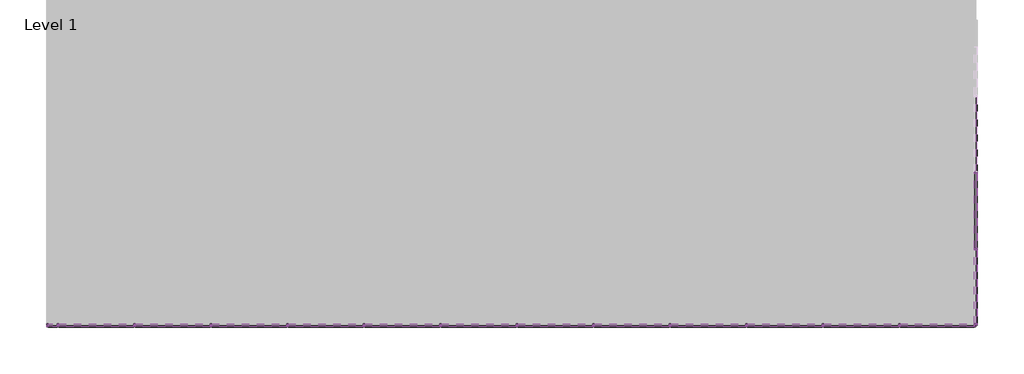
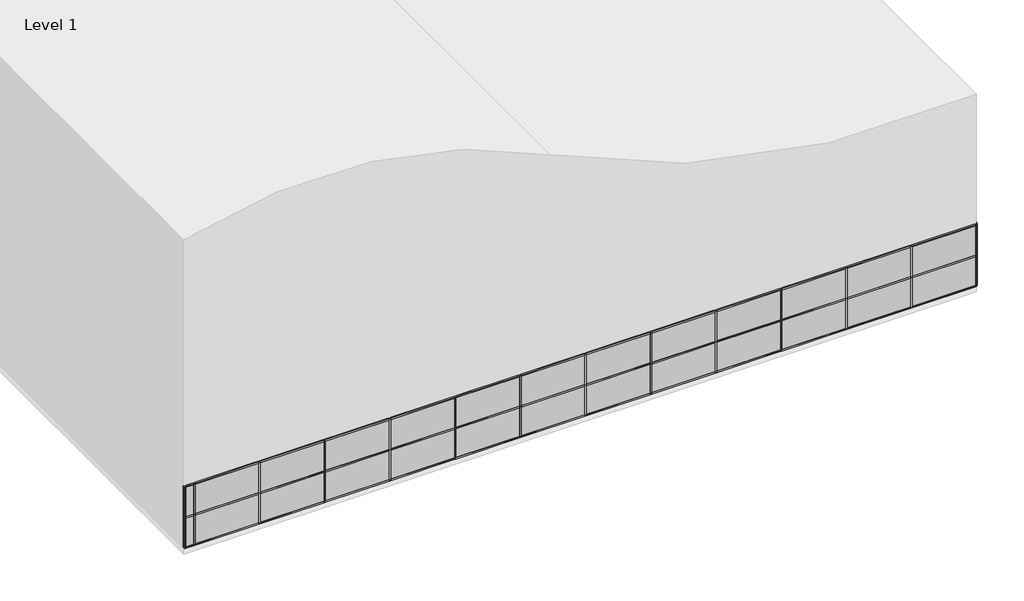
# One storey, part 1 of 2: 80 members, 32 plates.
"""IFC4 building model written with IfcOpenShell, lengths in millimetres."""

import ifcopenshell
import ifcopenshell.guid

model = None  # the IFC model being written
_history = None  # IfcOwnerHistory: only IFC2X3 demands one
_inside = {}  # id of a spatial element -> (the spatial element, [elements in it])
_under = {}  # id of a project, library or spatial element -> (it, [spatial elements below it])
_declared = {}  # id of a project -> (the project, [libraries it declares])
_typed = {}  # id of a type object -> (the type object, [elements of that type])
_made_of = {}  # id of a material, layer set ... -> (it, [elements and type objects made of it])


def new_model(schema):
    """Start an empty IFC model of exactly this schema.

    Asked for "IFC4X3", IfcOpenShell would pick the latest addendum, in which some entities
    have other attributes; the version numbers below select the first issue.
    IFC2X3 requires an IfcOwnerHistory on every rooted entity: one is made here for all.
    """
    global model, _history
    if schema == "IFC4X3":
        model = ifcopenshell.file(schema_version=(4, 3, 0, 0))
    else:
        model = ifcopenshell.file(schema=schema)
    _inside.clear()
    _under.clear()
    _declared.clear()
    _typed.clear()
    _made_of.clear()
    _history = None
    if model.schema == "IFC2X3":
        org = make("IfcOrganization", Name="unknown")
        user = make(
            "IfcPersonAndOrganization",
            ThePerson=make("IfcPerson", FamilyName="unknown"),
            TheOrganization=org,
        )
        app = make(
            "IfcApplication",
            ApplicationDeveloper=org,
            Version="unknown",
            ApplicationFullName="unknown",
            ApplicationIdentifier="unknown",
        )
        _history = make(
            "IfcOwnerHistory",
            OwningUser=user,
            OwningApplication=app,
            ChangeAction="ADDED",
            CreationDate=0,
        )
    return model


def make(cls, **values):
    """One entity of the class cls with the attributes given. An attribute that is None is left unset."""
    return model.create_entity(
        cls, **{name: value for name, value in values.items() if value is not None}
    )


def rooted(cls, **values):
    """An entity with a GlobalId (a new one), such as an element, a storey or a relation."""
    return make(cls, GlobalId=ifcopenshell.guid.new(), OwnerHistory=_history, **values)


def si_unit(unit_type, name, prefix=None):
    """IfcSIUnit, for example si_unit("LENGTHUNIT", "METRE", prefix="MILLI")."""
    return make("IfcSIUnit", UnitType=unit_type, Prefix=prefix, Name=name)


def assignment(units):
    """IfcUnitAssignment: the units of a project."""
    return None if units is None else make("IfcUnitAssignment", Units=units)


def point(xyz):
    """IfcCartesianPoint."""
    return None if xyz is None else make("IfcCartesianPoint", Coordinates=xyz)


def direction(xyz):
    """IfcDirection."""
    return None if xyz is None else make("IfcDirection", DirectionRatios=xyz)


def frame(location, z_axis=None, x_axis=None):
    """IfcAxis2Placement3D, a coordinate frame: its origin and axes. An axis left out is left unset."""
    return make(
        "IfcAxis2Placement3D",
        Location=point(location),
        Axis=direction(z_axis),
        RefDirection=direction(x_axis),
    )


def origin():
    """The frame at (0, 0, 0) with its axes left unset."""
    return frame((0.0, 0.0, 0.0))


def origin_with_axes():
    """The frame at (0, 0, 0) with the z axis (0, 0, 1) and the x axis (1, 0, 0) written out."""
    return frame((0.0, 0.0, 0.0), z_axis=(0.0, 0.0, 1.0), x_axis=(1.0, 0.0, 0.0))


def place(relative_to, where):
    """IfcLocalPlacement: puts the frame where relative to a parent placement (None: the world)."""
    return make(
        "IfcLocalPlacement", PlacementRelTo=relative_to, RelativePlacement=where
    )


def context(
    kind, dimensions, precision=None, world=None, true_north=None, identifier=None
):
    """IfcGeometricRepresentationContext, for example the 3D "Model" context."""
    return make(
        "IfcGeometricRepresentationContext",
        ContextIdentifier=identifier,
        ContextType=kind,
        CoordinateSpaceDimension=dimensions,
        Precision=precision,
        WorldCoordinateSystem=world,
        TrueNorth=true_north,
    )


def project(units=None, contexts=None):
    """IfcProject with its units and contexts."""
    return rooted(
        "IfcProject",
        Name="project",
        RepresentationContexts=contexts,
        UnitsInContext=assignment(units),
    )


def spatial(cls, under=None, at=None, **own):
    """A site, building, storey or space (cls), placed at a placement, below another one or the project."""
    s = rooted(cls, ObjectPlacement=at, **own)
    if under is not None:
        _under.setdefault(under.id(), (under, []))[1].append(s)
    return s


def polyline(points):
    """IfcPolyline through the points."""
    return make("IfcPolyline", Points=[point(p) for p in points])


def outline(outer, holes=None, kind="AREA"):
    """IfcArbitraryClosedProfileDef: a profile drawn as a closed curve; with holes, ...WithVoids."""
    if holes is None:
        return make("IfcArbitraryClosedProfileDef", ProfileType=kind, OuterCurve=outer)
    return make(
        "IfcArbitraryProfileDefWithVoids",
        ProfileType=kind,
        OuterCurve=outer,
        InnerCurves=holes,
    )


def extrude(swept, where, along, depth):
    """IfcExtrudedAreaSolid: the profile swept, set in the frame where, extruded along a direction by depth."""
    return make(
        "IfcExtrudedAreaSolid",
        SweptArea=swept,
        Position=where,
        ExtrudedDirection=direction(along),
        Depth=depth,
    )


def shape(context_of_items, identifier, shape_type, items):
    """IfcShapeRepresentation: the items that make up one representation, for example the "Body"."""
    return make(
        "IfcShapeRepresentation",
        ContextOfItems=context_of_items,
        RepresentationIdentifier=identifier,
        RepresentationType=shape_type,
        Items=items,
    )


def source(mapping_origin, context_of_items, identifier, shape_type, items):
    """IfcRepresentationMap: a shape defined once, which mapped items show again and again."""
    return make(
        "IfcRepresentationMap",
        MappingOrigin=mapping_origin,
        MappedRepresentation=shape(context_of_items, identifier, shape_type, items),
    )


def transform(
    local_origin,
    x_axis=None,
    y_axis=None,
    z_axis=None,
    scale=None,
    scale2=None,
    scale3=None,
    uniform=True,
):
    """IfcCartesianTransformationOperator3D, or its non-uniform kind. x_axis, y_axis, z_axis: its Axis1, 2, 3."""
    if uniform:
        return make(
            "IfcCartesianTransformationOperator3D",
            Axis1=direction(x_axis),
            Axis2=direction(y_axis),
            LocalOrigin=point(local_origin),
            Scale=scale,
            Axis3=direction(z_axis),
        )
    return make(
        "IfcCartesianTransformationOperator3DnonUniform",
        Axis1=direction(x_axis),
        Axis2=direction(y_axis),
        LocalOrigin=point(local_origin),
        Scale=scale,
        Axis3=direction(z_axis),
        Scale2=scale2,
        Scale3=scale3,
    )


def mapped(mapping_source, mapping_target):
    """IfcMappedItem: shows the shape of a source again, moved by a transform."""
    return make(
        "IfcMappedItem", MappingSource=mapping_source, MappingTarget=mapping_target
    )


def made_of(thing, what):
    """Note that an element or type object is made of a material, layer set ...; save() writes the relation."""
    if what is not None:
        _made_of.setdefault(what.id(), (what, []))[1].append(thing)
    return thing


def element(
    cls,
    number,
    at=None,
    inside=None,
    cuts=None,
    type_object=None,
    material=None,
    context=None,
    identifier="Body",
    shape_type=None,
    held_by="IfcProductDefinitionShape",
    body=None,
    shapes=None,
    **own,
):
    """One element of the class cls, such as IfcWall. Its Tag is "e" and its number.

    at: its placement. inside: the storey or other place that contains it. cuts: it is an
    opening in that element (IfcRelVoidsElement). A single representation is given by context,
    identifier, shape_type and body (its items); several are given by shapes. held_by: the class
    of the entity that holds the representations. save() writes the other relations.
    """
    e = rooted(cls, Tag="e%d" % number, ObjectPlacement=at, **own)
    if body is not None:
        shapes = [shape(context, identifier, shape_type, body)]
    if shapes is not None:
        e.Representation = make(held_by, Representations=shapes)
    if inside is not None:
        _inside.setdefault(inside.id(), (inside, []))[1].append(e)
    if cuts is not None:
        rooted(
            "IfcRelVoidsElement", RelatingBuildingElement=cuts, RelatedOpeningElement=e
        )
    if type_object is not None:
        _typed.setdefault(type_object.id(), (type_object, []))[1].append(e)
    return made_of(e, material)


def aggregate(whole, parts):
    """IfcRelAggregates: a whole, such as a stair, and the parts it consists of."""
    return rooted("IfcRelAggregates", RelatingObject=whole, RelatedObjects=parts)


def save(model, path):
    """Write the relations noted so far, then the file.

    IfcRelAggregates (storeys below a building ...), IfcRelContainedInSpatialStructure (elements
    in a storey), IfcRelDefinesByType, IfcRelAssociatesMaterial and IfcRelDeclares: one each for
    every whole, place, type object, material and project.
    """
    for whole, parts in _under.values():
        aggregate(whole, parts)
    for where, things in _inside.values():
        rooted(
            "IfcRelContainedInSpatialStructure",
            RelatedElements=things,
            RelatingStructure=where,
        )
    for kind, things in _typed.values():
        rooted("IfcRelDefinesByType", RelatedObjects=things, RelatingType=kind)
    for what, things in _made_of.values():
        rooted("IfcRelAssociatesMaterial", RelatedObjects=things, RelatingMaterial=what)
    for by, libraries in _declared.values():
        rooted("IfcRelDeclares", RelatingContext=by, RelatedDefinitions=libraries)
    model.write(path)


def member_8cef0660(model_context):
    return source(origin(), model_context, "Body", "SweptSolid", [
        extrude(outline(polyline([(31.75, 63.5), (31.75, -63.5), (-31.75, -63.5), (-31.75, 63.5), (31.75, 63.5)])), frame((0.0, 0.0, -2984.5), z_axis=(0.0, 0.0, 1.0), x_axis=(1.0, 0.0, 0.0)), (0.0, 0.0, 1.0), 2984.5),
    ])


def member_c65d5026(model_context):
    return source(origin(), model_context, "Body", "SweptSolid", [
        extrude(outline(polyline([(31.75, 63.5), (31.75, -63.5), (-31.75, -63.5), (-31.75, 63.5), (31.75, 63.5)])), frame((0.0, 0.0, -2952.75), z_axis=(0.0, 0.0, 1.0), x_axis=(1.0, 0.0, 0.0)), (0.0, 0.0, 1.0), 2952.75),
    ])


def member_82905deb(model_context):
    return source(origin(), model_context, "Body", "SweptSolid", [
        extrude(outline(polyline([(31.75, 63.5), (31.75, -63.5), (-31.75, -63.5), (-31.75, 63.5), (31.75, 63.5)])), frame((0.0, 0.0, -1524.0), z_axis=(0.0, 0.0, 1.0), x_axis=(1.0, 0.0, 0.0)), (0.0, 0.0, 1.0), 1524.0),
    ])


def member_db480205(model_context):
    return source(origin(), model_context, "Body", "SweptSolid", [
        extrude(outline(polyline([(0.0, 63.5), (0.0, -63.5), (-63.5, -63.5), (-63.5, 63.5), (0.0, 63.5)])), frame((0.0, 0.0, -2984.5), z_axis=(0.0, 0.0, 1.0), x_axis=(1.0, 0.0, 0.0)), (0.0, 0.0, 1.0), 2984.5),
    ])


def member_d9b0607a(model_context):
    return source(origin(), model_context, "Body", "SweptSolid", [
        extrude(outline(polyline([(0.0, 63.5), (0.0, -63.5), (-63.5, -63.5), (-63.5, 63.5), (0.0, 63.5)])), frame((0.0, 0.0, -2952.75), z_axis=(0.0, 0.0, 1.0), x_axis=(1.0, 0.0, 0.0)), (0.0, 0.0, 1.0), 2952.75),
    ])


def member_4491d118(model_context):
    return source(origin(), model_context, "Body", "SweptSolid", [
        extrude(outline(polyline([(0.0, 63.5), (0.0, -63.5), (-63.5, -63.5), (-63.5, 63.5), (0.0, 63.5)])), frame((0.0, 0.0, -1524.0), z_axis=(0.0, 0.0, 1.0), x_axis=(1.0, 0.0, 0.0)), (0.0, 0.0, 1.0), 1524.0),
    ])


def member_843225dc(model_context):
    return source(origin(), model_context, "Body", "SweptSolid", [
        extrude(outline(polyline([(0.0, 63.5), (0.0, -63.5), (-63.5, -63.5), (-63.5, 63.5), (0.0, 63.5)])), frame((0.0, 0.0, -361.95), z_axis=(0.0, 0.0, 1.0), x_axis=(1.0, 0.0, 0.0)), (0.0, 0.0, 1.0), 361.95),
    ])


def member_af2f84b9(model_context):
    return source(origin(), model_context, "Body", "SweptSolid", [
        extrude(outline(polyline([(31.75, 63.5), (31.75, -63.5), (-31.75, -63.5), (-31.75, 63.5), (31.75, 63.5)])), frame((0.0, 0.0, -361.95), z_axis=(0.0, 0.0, 1.0), x_axis=(1.0, 0.0, 0.0)), (0.0, 0.0, 1.0), 361.95),
    ])


def empty_system_panel_empty_d68e6c83(model_context):
    return source(origin(), model_context, "Body", "SweptSolid", [
        extrude(outline(polyline([(1492.25, -50.8), (-1492.25, -50.8), (-1492.25, 50.8), (1492.25, 50.8), (1492.25, -50.8)])), origin_with_axes(), (0.0, 0.0, 1.0), 1428.75),
    ])


def system_panel_glazed_d57e1c1e(model_context):
    return source(origin(), model_context, "Body", "SweptSolid", [
        extrude(outline(polyline([(1476.375, 19.05), (-1476.375, 19.05), (-1476.375, 44.45), (1476.375, 44.45), (1476.375, 19.05)])), origin_with_axes(), (0.0, 0.0, 1.0), 1428.75),
    ])


def system_panel_glazed_3620f98e(model_context):
    return source(origin(), model_context, "Body", "SweptSolid", [
        extrude(outline(polyline([(1492.25, 19.05), (-1492.25, 19.05), (-1492.25, 44.45), (1492.25, 44.45), (1492.25, 19.05)])), origin_with_axes(), (0.0, 0.0, 1.0), 1428.75),
    ])


def system_panel_glazed_88acb840(model_context):
    return source(origin(), model_context, "Body", "SweptSolid", [
        extrude(outline(polyline([(1476.375, 19.05), (-1476.375, 19.05), (-1476.375, 44.45), (1476.375, 44.45), (1476.375, 19.05)])), origin_with_axes(), (0.0, 0.0, 1.0), 1460.5),
    ])


def system_panel_glazed_2a6c68b7(model_context):
    return source(origin(), model_context, "Body", "SweptSolid", [
        extrude(outline(polyline([(1492.25, 19.05), (-1492.25, 19.05), (-1492.25, 44.45), (1492.25, 44.45), (1492.25, 19.05)])), origin_with_axes(), (0.0, 0.0, 1.0), 1460.5),
    ])


def system_panel_glazed_e12d2849(model_context):
    return source(origin(), model_context, "Body", "SweptSolid", [
        extrude(outline(polyline([(180.975, 19.05), (-180.975, 19.05), (-180.975, 44.45), (180.975, 44.45), (180.975, 19.05)])), origin_with_axes(), (0.0, 0.0, 1.0), 1428.75),
    ])


def system_panel_glazed_224948cd(model_context):
    return source(origin(), model_context, "Body", "SweptSolid", [
        extrude(outline(polyline([(180.975, 19.05), (-180.975, 19.05), (-180.975, 44.45), (180.975, 44.45), (180.975, 19.05)])), origin_with_axes(), (0.0, 0.0, 1.0), 1460.5),
    ])


model = new_model("IFC4")

# Units and contexts
model_context = context("Model", 3, world=origin())
ifc_project = project(units=[si_unit("LENGTHUNIT", "METRE", prefix="MILLI")], contexts=[model_context])

# Site, building, storey
site = spatial("IfcSite", under=ifc_project)
building = spatial("IfcBuilding", under=site)
storey = spatial("IfcBuildingStorey", under=building, Name="Level 1", Elevation=0.0)

# Members
placement = place(None, origin())
member_shape = member_8cef0660(model_context)
element("IfcMember", 1, ObjectType="Rectangular Mullion : 2.5\" x 5\" rectangular", at=placement, inside=storey, context=model_context, shape_type="MappedRepresentation", body=[
    mapped(member_shape, transform((-7003.8511466, -36697.3111797, 3048.0), x_axis=(0.0, 0.0, 1.0), y_axis=(1.0, 0.0, 0.0), z_axis=(0.0, 1.0, 0.0))),
])
element("IfcMember", 2, ObjectType="Rectangular Mullion : 2.5\" x 5\" rectangular", at=placement, inside=storey, context=model_context, shape_type="MappedRepresentation", body=[
    mapped(member_shape, transform((-7003.8511466, -36697.3111797, 1524.0), x_axis=(0.0, 0.0, 1.0), y_axis=(1.0, 0.0, 0.0), z_axis=(0.0, 1.0, 0.0))),
])
element("IfcMember", 3, ObjectType="Rectangular Mullion : 2.5\" x 5\" rectangular", at=placement, inside=storey, context=model_context, shape_type="MappedRepresentation", body=[
    mapped(member_shape, transform((-10083.6011466, -42761.5611797, 1524.0), x_axis=(0.0, 0.0, 1.0), y_axis=(0.0, -1.0, 0.0), z_axis=(1.0, 0.0, 0.0))),
])
element("IfcMember", 4, ObjectType="Rectangular Mullion : 2.5\" x 5\" rectangular", at=placement, inside=storey, context=model_context, shape_type="MappedRepresentation", body=[
    mapped(member_shape, transform((-40563.6011466, -42761.5611797, 3048.0), x_axis=(0.0, 0.0, 1.0), y_axis=(0.0, -1.0, 0.0), z_axis=(1.0, 0.0, 0.0))),
])
element("IfcMember", 5, ObjectType="Rectangular Mullion : 2.5\" x 5\" rectangular", at=placement, inside=storey, context=model_context, shape_type="MappedRepresentation", body=[
    mapped(member_shape, transform((-37515.6011466, -42761.5611797, 3048.0), x_axis=(0.0, 0.0, 1.0), y_axis=(0.0, -1.0, 0.0), z_axis=(1.0, 0.0, 0.0))),
])
element("IfcMember", 6, ObjectType="Rectangular Mullion : 2.5\" x 5\" rectangular", at=placement, inside=storey, context=model_context, shape_type="MappedRepresentation", body=[
    mapped(member_shape, transform((-34467.6011466, -42761.5611797, 3048.0), x_axis=(0.0, 0.0, 1.0), y_axis=(0.0, -1.0, 0.0), z_axis=(1.0, 0.0, 0.0))),
])
element("IfcMember", 7, ObjectType="Rectangular Mullion : 2.5\" x 5\" rectangular", at=placement, inside=storey, context=model_context, shape_type="MappedRepresentation", body=[
    mapped(member_shape, transform((-31419.6011466, -42761.5611797, 3048.0), x_axis=(0.0, 0.0, 1.0), y_axis=(0.0, -1.0, 0.0), z_axis=(1.0, 0.0, 0.0))),
])
element("IfcMember", 8, ObjectType="Rectangular Mullion : 2.5\" x 5\" rectangular", at=placement, inside=storey, context=model_context, shape_type="MappedRepresentation", body=[
    mapped(member_shape, transform((-28371.6011466, -42761.5611797, 3048.0), x_axis=(0.0, 0.0, 1.0), y_axis=(0.0, -1.0, 0.0), z_axis=(1.0, 0.0, 0.0))),
])
element("IfcMember", 9, ObjectType="Rectangular Mullion : 2.5\" x 5\" rectangular", at=placement, inside=storey, context=model_context, shape_type="MappedRepresentation", body=[
    mapped(member_shape, transform((-25323.6011466, -42761.5611797, 3048.0), x_axis=(0.0, 0.0, 1.0), y_axis=(0.0, -1.0, 0.0), z_axis=(1.0, 0.0, 0.0))),
])
element("IfcMember", 10, ObjectType="Rectangular Mullion : 2.5\" x 5\" rectangular", at=placement, inside=storey, context=model_context, shape_type="MappedRepresentation", body=[
    mapped(member_shape, transform((-22275.6011466, -42761.5611797, 3048.0), x_axis=(0.0, 0.0, 1.0), y_axis=(0.0, -1.0, 0.0), z_axis=(1.0, 0.0, 0.0))),
])
element("IfcMember", 11, ObjectType="Rectangular Mullion : 2.5\" x 5\" rectangular", at=placement, inside=storey, context=model_context, shape_type="MappedRepresentation", body=[
    mapped(member_shape, transform((-19227.6011466, -42761.5611797, 3048.0), x_axis=(0.0, 0.0, 1.0), y_axis=(0.0, -1.0, 0.0), z_axis=(1.0, 0.0, 0.0))),
])
element("IfcMember", 12, ObjectType="Rectangular Mullion : 2.5\" x 5\" rectangular", at=placement, inside=storey, context=model_context, shape_type="MappedRepresentation", body=[
    mapped(member_shape, transform((-16179.6011466, -42761.5611797, 3048.0), x_axis=(0.0, 0.0, 1.0), y_axis=(0.0, -1.0, 0.0), z_axis=(1.0, 0.0, 0.0))),
])
element("IfcMember", 13, ObjectType="Rectangular Mullion : 2.5\" x 5\" rectangular", at=placement, inside=storey, context=model_context, shape_type="MappedRepresentation", body=[
    mapped(member_shape, transform((-13131.6011466, -42761.5611797, 3048.0), x_axis=(0.0, 0.0, 1.0), y_axis=(0.0, -1.0, 0.0), z_axis=(1.0, 0.0, 0.0))),
])
element("IfcMember", 14, ObjectType="Rectangular Mullion : 2.5\" x 5\" rectangular", at=placement, inside=storey, context=model_context, shape_type="MappedRepresentation", body=[
    mapped(member_shape, transform((-10083.6011466, -42761.5611797, 3048.0), x_axis=(0.0, 0.0, 1.0), y_axis=(0.0, -1.0, 0.0), z_axis=(1.0, 0.0, 0.0))),
])
element("IfcMember", 15, ObjectType="Rectangular Mullion : 2.5\" x 5\" rectangular", at=placement, inside=storey, context=model_context, shape_type="MappedRepresentation", body=[
    mapped(member_shape, transform((-40563.6011466, -42761.5611797, 1524.0), x_axis=(0.0, 0.0, 1.0), y_axis=(0.0, -1.0, 0.0), z_axis=(1.0, 0.0, 0.0))),
])
element("IfcMember", 16, ObjectType="Rectangular Mullion : 2.5\" x 5\" rectangular", at=placement, inside=storey, context=model_context, shape_type="MappedRepresentation", body=[
    mapped(member_shape, transform((-37515.6011466, -42761.5611797, 1524.0), x_axis=(0.0, 0.0, 1.0), y_axis=(0.0, -1.0, 0.0), z_axis=(1.0, 0.0, 0.0))),
])
element("IfcMember", 17, ObjectType="Rectangular Mullion : 2.5\" x 5\" rectangular", at=placement, inside=storey, context=model_context, shape_type="MappedRepresentation", body=[
    mapped(member_shape, transform((-34467.6011466, -42761.5611797, 1524.0), x_axis=(0.0, 0.0, 1.0), y_axis=(0.0, -1.0, 0.0), z_axis=(1.0, 0.0, 0.0))),
])
element("IfcMember", 18, ObjectType="Rectangular Mullion : 2.5\" x 5\" rectangular", at=placement, inside=storey, context=model_context, shape_type="MappedRepresentation", body=[
    mapped(member_shape, transform((-31419.6011466, -42761.5611797, 1524.0), x_axis=(0.0, 0.0, 1.0), y_axis=(0.0, -1.0, 0.0), z_axis=(1.0, 0.0, 0.0))),
])
element("IfcMember", 19, ObjectType="Rectangular Mullion : 2.5\" x 5\" rectangular", at=placement, inside=storey, context=model_context, shape_type="MappedRepresentation", body=[
    mapped(member_shape, transform((-28371.6011466, -42761.5611797, 1524.0), x_axis=(0.0, 0.0, 1.0), y_axis=(0.0, -1.0, 0.0), z_axis=(1.0, 0.0, 0.0))),
])
element("IfcMember", 20, ObjectType="Rectangular Mullion : 2.5\" x 5\" rectangular", at=placement, inside=storey, context=model_context, shape_type="MappedRepresentation", body=[
    mapped(member_shape, transform((-25323.6011466, -42761.5611797, 1524.0), x_axis=(0.0, 0.0, 1.0), y_axis=(0.0, -1.0, 0.0), z_axis=(1.0, 0.0, 0.0))),
])
element("IfcMember", 21, ObjectType="Rectangular Mullion : 2.5\" x 5\" rectangular", at=placement, inside=storey, context=model_context, shape_type="MappedRepresentation", body=[
    mapped(member_shape, transform((-22275.6011466, -42761.5611797, 1524.0), x_axis=(0.0, 0.0, 1.0), y_axis=(0.0, -1.0, 0.0), z_axis=(1.0, 0.0, 0.0))),
])
element("IfcMember", 22, ObjectType="Rectangular Mullion : 2.5\" x 5\" rectangular", at=placement, inside=storey, context=model_context, shape_type="MappedRepresentation", body=[
    mapped(member_shape, transform((-19227.6011466, -42761.5611797, 1524.0), x_axis=(0.0, 0.0, 1.0), y_axis=(0.0, -1.0, 0.0), z_axis=(1.0, 0.0, 0.0))),
])
element("IfcMember", 23, ObjectType="Rectangular Mullion : 2.5\" x 5\" rectangular", at=placement, inside=storey, context=model_context, shape_type="MappedRepresentation", body=[
    mapped(member_shape, transform((-16179.6011466, -42761.5611797, 1524.0), x_axis=(0.0, 0.0, 1.0), y_axis=(0.0, -1.0, 0.0), z_axis=(1.0, 0.0, 0.0))),
])
element("IfcMember", 24, ObjectType="Rectangular Mullion : 2.5\" x 5\" rectangular", at=placement, inside=storey, context=model_context, shape_type="MappedRepresentation", body=[
    mapped(member_shape, transform((-13131.6011466, -42761.5611797, 1524.0), x_axis=(0.0, 0.0, 1.0), y_axis=(0.0, -1.0, 0.0), z_axis=(1.0, 0.0, 0.0))),
])
member_2_shape = member_c65d5026(model_context)
element("IfcMember", 25, ObjectType="Rectangular Mullion : 2.5\" x 5\" rectangular", at=placement, inside=storey, context=model_context, shape_type="MappedRepresentation", body=[
    mapped(member_2_shape, transform((-7003.8511466, -39745.3111797, 3048.0), x_axis=(0.0, 0.0, 1.0), y_axis=(1.0, 0.0, 0.0), z_axis=(0.0, 1.0, 0.0))),
])
element("IfcMember", 26, ObjectType="Rectangular Mullion : 2.5\" x 5\" rectangular", at=placement, inside=storey, context=model_context, shape_type="MappedRepresentation", body=[
    mapped(member_2_shape, transform((-7003.8511466, -39745.3111797, 1524.0), x_axis=(0.0, 0.0, 1.0), y_axis=(1.0, 0.0, 0.0), z_axis=(0.0, 1.0, 0.0))),
])
element("IfcMember", 27, ObjectType="Rectangular Mullion : 2.5\" x 5\" rectangular", at=placement, inside=storey, context=model_context, shape_type="MappedRepresentation", body=[
    mapped(member_2_shape, transform((-7067.3511466, -42761.5611797, 1524.0), x_axis=(0.0, 0.0, 1.0), y_axis=(0.0, -1.0, 0.0), z_axis=(1.0, 0.0, 0.0))),
])
element("IfcMember", 28, ObjectType="Rectangular Mullion : 2.5\" x 5\" rectangular", at=placement, inside=storey, context=model_context, shape_type="MappedRepresentation", body=[
    mapped(member_2_shape, transform((-7067.3511466, -42761.5611797, 3048.0), x_axis=(0.0, 0.0, 1.0), y_axis=(0.0, -1.0, 0.0), z_axis=(1.0, 0.0, 0.0))),
])
member_3_shape = member_82905deb(model_context)
element("IfcMember", 29, ObjectType="Rectangular Mullion : 2.5\" x 5\" rectangular", at=placement, inside=storey, context=model_context, shape_type="MappedRepresentation", body=[
    mapped(member_3_shape, transform((-7003.8511466, -39713.5611797, 3048.0), x_axis=(0.0, -1.0, 0.0), y_axis=(1.0, 0.0, 0.0), z_axis=(0.0, 0.0, 1.0))),
])
element("IfcMember", 30, ObjectType="Rectangular Mullion : 2.5\" x 5\" rectangular", at=placement, inside=storey, context=model_context, shape_type="MappedRepresentation", body=[
    mapped(member_3_shape, transform((-7003.8511466, -36665.5611797, 3048.0), x_axis=(0.0, -1.0, 0.0), y_axis=(1.0, 0.0, 0.0), z_axis=(0.0, 0.0, 1.0))),
])
element("IfcMember", 31, ObjectType="Rectangular Mullion : 2.5\" x 5\" rectangular", at=placement, inside=storey, context=model_context, shape_type="MappedRepresentation", body=[
    mapped(member_3_shape, transform((-10051.8511466, -42761.5611797, 3048.0), x_axis=(-1.0, 0.0, 0.0), y_axis=(0.0, -1.0, 0.0), z_axis=(0.0, 0.0, 1.0))),
])
element("IfcMember", 32, ObjectType="Rectangular Mullion : 2.5\" x 5\" rectangular", at=placement, inside=storey, context=model_context, shape_type="MappedRepresentation", body=[
    mapped(member_3_shape, transform((-31387.8511466, -42761.5611797, 3048.0), x_axis=(-1.0, 0.0, 0.0), y_axis=(0.0, -1.0, 0.0), z_axis=(0.0, 0.0, 1.0))),
])
element("IfcMember", 33, ObjectType="Rectangular Mullion : 2.5\" x 5\" rectangular", at=placement, inside=storey, context=model_context, shape_type="MappedRepresentation", body=[
    mapped(member_3_shape, transform((-28339.8511466, -42761.5611797, 3048.0), x_axis=(-1.0, 0.0, 0.0), y_axis=(0.0, -1.0, 0.0), z_axis=(0.0, 0.0, 1.0))),
])
element("IfcMember", 34, ObjectType="Rectangular Mullion : 2.5\" x 5\" rectangular", at=placement, inside=storey, context=model_context, shape_type="MappedRepresentation", body=[
    mapped(member_3_shape, transform((-25291.8511466, -42761.5611797, 3048.0), x_axis=(-1.0, 0.0, 0.0), y_axis=(0.0, -1.0, 0.0), z_axis=(0.0, 0.0, 1.0))),
])
element("IfcMember", 35, ObjectType="Rectangular Mullion : 2.5\" x 5\" rectangular", at=placement, inside=storey, context=model_context, shape_type="MappedRepresentation", body=[
    mapped(member_3_shape, transform((-22243.8511466, -42761.5611797, 3048.0), x_axis=(-1.0, 0.0, 0.0), y_axis=(0.0, -1.0, 0.0), z_axis=(0.0, 0.0, 1.0))),
])
element("IfcMember", 36, ObjectType="Rectangular Mullion : 2.5\" x 5\" rectangular", at=placement, inside=storey, context=model_context, shape_type="MappedRepresentation", body=[
    mapped(member_3_shape, transform((-19195.8511466, -42761.5611797, 3048.0), x_axis=(-1.0, 0.0, 0.0), y_axis=(0.0, -1.0, 0.0), z_axis=(0.0, 0.0, 1.0))),
])
element("IfcMember", 37, ObjectType="Rectangular Mullion : 2.5\" x 5\" rectangular", at=placement, inside=storey, context=model_context, shape_type="MappedRepresentation", body=[
    mapped(member_3_shape, transform((-16147.8511466, -42761.5611797, 3048.0), x_axis=(-1.0, 0.0, 0.0), y_axis=(0.0, -1.0, 0.0), z_axis=(0.0, 0.0, 1.0))),
])
element("IfcMember", 38, ObjectType="Rectangular Mullion : 2.5\" x 5\" rectangular", at=placement, inside=storey, context=model_context, shape_type="MappedRepresentation", body=[
    mapped(member_3_shape, transform((-13099.8511466, -42761.5611797, 3048.0), x_axis=(-1.0, 0.0, 0.0), y_axis=(0.0, -1.0, 0.0), z_axis=(0.0, 0.0, 1.0))),
])
element("IfcMember", 39, ObjectType="Rectangular Mullion : 2.5\" x 5\" rectangular", at=placement, inside=storey, context=model_context, shape_type="MappedRepresentation", body=[
    mapped(member_3_shape, transform((-43579.8511466, -42761.5611797, 3048.0), x_axis=(-1.0, 0.0, 0.0), y_axis=(0.0, -1.0, 0.0), z_axis=(0.0, 0.0, 1.0))),
])
element("IfcMember", 40, ObjectType="Rectangular Mullion : 2.5\" x 5\" rectangular", at=placement, inside=storey, context=model_context, shape_type="MappedRepresentation", body=[
    mapped(member_3_shape, transform((-40531.8511466, -42761.5611797, 3048.0), x_axis=(-1.0, 0.0, 0.0), y_axis=(0.0, -1.0, 0.0), z_axis=(0.0, 0.0, 1.0))),
])
element("IfcMember", 41, ObjectType="Rectangular Mullion : 2.5\" x 5\" rectangular", at=placement, inside=storey, context=model_context, shape_type="MappedRepresentation", body=[
    mapped(member_3_shape, transform((-37483.8511466, -42761.5611797, 3048.0), x_axis=(-1.0, 0.0, 0.0), y_axis=(0.0, -1.0, 0.0), z_axis=(0.0, 0.0, 1.0))),
])
element("IfcMember", 42, ObjectType="Rectangular Mullion : 2.5\" x 5\" rectangular", at=placement, inside=storey, context=model_context, shape_type="MappedRepresentation", body=[
    mapped(member_3_shape, transform((-34435.8511466, -42761.5611797, 3048.0), x_axis=(-1.0, 0.0, 0.0), y_axis=(0.0, -1.0, 0.0), z_axis=(0.0, 0.0, 1.0))),
])
element("IfcMember", 43, ObjectType="Rectangular Mullion : 2.5\" x 5\" rectangular", at=placement, inside=storey, context=model_context, shape_type="MappedRepresentation", body=[
    mapped(member_3_shape, transform((-7003.8511466, -39713.5611797, 1524.0), x_axis=(0.0, -1.0, 0.0), y_axis=(1.0, 0.0, 0.0), z_axis=(0.0, 0.0, 1.0))),
])
element("IfcMember", 44, ObjectType="Rectangular Mullion : 2.5\" x 5\" rectangular", at=placement, inside=storey, context=model_context, shape_type="MappedRepresentation", body=[
    mapped(member_3_shape, transform((-7003.8511466, -36665.5611797, 1524.0), x_axis=(0.0, -1.0, 0.0), y_axis=(1.0, 0.0, 0.0), z_axis=(0.0, 0.0, 1.0))),
])
element("IfcMember", 45, ObjectType="Rectangular Mullion : 2.5\" x 5\" rectangular", at=placement, inside=storey, context=model_context, shape_type="MappedRepresentation", body=[
    mapped(member_3_shape, transform((-13099.8511466, -42761.5611797, 1524.0), x_axis=(-1.0, 0.0, 0.0), y_axis=(0.0, -1.0, 0.0), z_axis=(0.0, 0.0, 1.0))),
])
element("IfcMember", 46, ObjectType="Rectangular Mullion : 2.5\" x 5\" rectangular", at=placement, inside=storey, context=model_context, shape_type="MappedRepresentation", body=[
    mapped(member_3_shape, transform((-10051.8511466, -42761.5611797, 1524.0), x_axis=(-1.0, 0.0, 0.0), y_axis=(0.0, -1.0, 0.0), z_axis=(0.0, 0.0, 1.0))),
])
element("IfcMember", 47, ObjectType="Rectangular Mullion : 2.5\" x 5\" rectangular", at=placement, inside=storey, context=model_context, shape_type="MappedRepresentation", body=[
    mapped(member_3_shape, transform((-31387.8511466, -42761.5611797, 1524.0), x_axis=(-1.0, 0.0, 0.0), y_axis=(0.0, -1.0, 0.0), z_axis=(0.0, 0.0, 1.0))),
])
element("IfcMember", 48, ObjectType="Rectangular Mullion : 2.5\" x 5\" rectangular", at=placement, inside=storey, context=model_context, shape_type="MappedRepresentation", body=[
    mapped(member_3_shape, transform((-28339.8511466, -42761.5611797, 1524.0), x_axis=(-1.0, 0.0, 0.0), y_axis=(0.0, -1.0, 0.0), z_axis=(0.0, 0.0, 1.0))),
])
element("IfcMember", 49, ObjectType="Rectangular Mullion : 2.5\" x 5\" rectangular", at=placement, inside=storey, context=model_context, shape_type="MappedRepresentation", body=[
    mapped(member_3_shape, transform((-25291.8511466, -42761.5611797, 1524.0), x_axis=(-1.0, 0.0, 0.0), y_axis=(0.0, -1.0, 0.0), z_axis=(0.0, 0.0, 1.0))),
])
element("IfcMember", 50, ObjectType="Rectangular Mullion : 2.5\" x 5\" rectangular", at=placement, inside=storey, context=model_context, shape_type="MappedRepresentation", body=[
    mapped(member_3_shape, transform((-22243.8511466, -42761.5611797, 1524.0), x_axis=(-1.0, 0.0, 0.0), y_axis=(0.0, -1.0, 0.0), z_axis=(0.0, 0.0, 1.0))),
])
element("IfcMember", 51, ObjectType="Rectangular Mullion : 2.5\" x 5\" rectangular", at=placement, inside=storey, context=model_context, shape_type="MappedRepresentation", body=[
    mapped(member_3_shape, transform((-19195.8511466, -42761.5611797, 1524.0), x_axis=(-1.0, 0.0, 0.0), y_axis=(0.0, -1.0, 0.0), z_axis=(0.0, 0.0, 1.0))),
])
element("IfcMember", 52, ObjectType="Rectangular Mullion : 2.5\" x 5\" rectangular", at=placement, inside=storey, context=model_context, shape_type="MappedRepresentation", body=[
    mapped(member_3_shape, transform((-16147.8511466, -42761.5611797, 1524.0), x_axis=(-1.0, 0.0, 0.0), y_axis=(0.0, -1.0, 0.0), z_axis=(0.0, 0.0, 1.0))),
])
element("IfcMember", 53, ObjectType="Rectangular Mullion : 2.5\" x 5\" rectangular", at=placement, inside=storey, context=model_context, shape_type="MappedRepresentation", body=[
    mapped(member_3_shape, transform((-43579.8511466, -42761.5611797, 1524.0), x_axis=(-1.0, 0.0, 0.0), y_axis=(0.0, -1.0, 0.0), z_axis=(0.0, 0.0, 1.0))),
])
element("IfcMember", 54, ObjectType="Rectangular Mullion : 2.5\" x 5\" rectangular", at=placement, inside=storey, context=model_context, shape_type="MappedRepresentation", body=[
    mapped(member_3_shape, transform((-40531.8511466, -42761.5611797, 1524.0), x_axis=(-1.0, 0.0, 0.0), y_axis=(0.0, -1.0, 0.0), z_axis=(0.0, 0.0, 1.0))),
])
element("IfcMember", 55, ObjectType="Rectangular Mullion : 2.5\" x 5\" rectangular", at=placement, inside=storey, context=model_context, shape_type="MappedRepresentation", body=[
    mapped(member_3_shape, transform((-37483.8511466, -42761.5611797, 1524.0), x_axis=(-1.0, 0.0, 0.0), y_axis=(0.0, -1.0, 0.0), z_axis=(0.0, 0.0, 1.0))),
])
element("IfcMember", 56, ObjectType="Rectangular Mullion : 2.5\" x 5\" rectangular", at=placement, inside=storey, context=model_context, shape_type="MappedRepresentation", body=[
    mapped(member_3_shape, transform((-34435.8511466, -42761.5611797, 1524.0), x_axis=(-1.0, 0.0, 0.0), y_axis=(0.0, -1.0, 0.0), z_axis=(0.0, 0.0, 1.0))),
])
member_4_shape = member_db480205(model_context)
element("IfcMember", 57, ObjectType="Rectangular Mullion : 2.5\" x 5\" rectangular", at=placement, inside=storey, context=model_context, shape_type="MappedRepresentation", body=[
    mapped(member_4_shape, transform((-7003.8511466, -39681.8111797, 0.0), x_axis=(0.0, 0.0, -1.0), y_axis=(1.0, 0.0, 0.0), z_axis=(0.0, -1.0, 0.0))),
])
element("IfcMember", 58, ObjectType="Rectangular Mullion : 2.5\" x 5\" rectangular", at=placement, inside=storey, context=model_context, shape_type="MappedRepresentation", body=[
    mapped(member_4_shape, transform((-7003.8511466, -36633.8111797, 0.0), x_axis=(0.0, 0.0, -1.0), y_axis=(1.0, 0.0, 0.0), z_axis=(0.0, -1.0, 0.0))),
])
element("IfcMember", 59, ObjectType="Rectangular Mullion : 2.5\" x 5\" rectangular", at=placement, inside=storey, context=model_context, shape_type="MappedRepresentation", body=[
    mapped(member_4_shape, transform((-43548.1011466, -42761.5611797, 0.0), x_axis=(0.0, 0.0, -1.0), y_axis=(0.0, -1.0, 0.0), z_axis=(-1.0, 0.0, 0.0))),
])
element("IfcMember", 60, ObjectType="Rectangular Mullion : 2.5\" x 5\" rectangular", at=placement, inside=storey, context=model_context, shape_type="MappedRepresentation", body=[
    mapped(member_4_shape, transform((-40500.1011466, -42761.5611797, 0.0), x_axis=(0.0, 0.0, -1.0), y_axis=(0.0, -1.0, 0.0), z_axis=(-1.0, 0.0, 0.0))),
])
element("IfcMember", 61, ObjectType="Rectangular Mullion : 2.5\" x 5\" rectangular", at=placement, inside=storey, context=model_context, shape_type="MappedRepresentation", body=[
    mapped(member_4_shape, transform((-37452.1011466, -42761.5611797, 0.0), x_axis=(0.0, 0.0, -1.0), y_axis=(0.0, -1.0, 0.0), z_axis=(-1.0, 0.0, 0.0))),
])
element("IfcMember", 62, ObjectType="Rectangular Mullion : 2.5\" x 5\" rectangular", at=placement, inside=storey, context=model_context, shape_type="MappedRepresentation", body=[
    mapped(member_4_shape, transform((-34404.1011466, -42761.5611797, 0.0), x_axis=(0.0, 0.0, -1.0), y_axis=(0.0, -1.0, 0.0), z_axis=(-1.0, 0.0, 0.0))),
])
element("IfcMember", 63, ObjectType="Rectangular Mullion : 2.5\" x 5\" rectangular", at=placement, inside=storey, context=model_context, shape_type="MappedRepresentation", body=[
    mapped(member_4_shape, transform((-31356.1011466, -42761.5611797, 0.0), x_axis=(0.0, 0.0, -1.0), y_axis=(0.0, -1.0, 0.0), z_axis=(-1.0, 0.0, 0.0))),
])
element("IfcMember", 64, ObjectType="Rectangular Mullion : 2.5\" x 5\" rectangular", at=placement, inside=storey, context=model_context, shape_type="MappedRepresentation", body=[
    mapped(member_4_shape, transform((-28308.1011466, -42761.5611797, 0.0), x_axis=(0.0, 0.0, -1.0), y_axis=(0.0, -1.0, 0.0), z_axis=(-1.0, 0.0, 0.0))),
])
element("IfcMember", 65, ObjectType="Rectangular Mullion : 2.5\" x 5\" rectangular", at=placement, inside=storey, context=model_context, shape_type="MappedRepresentation", body=[
    mapped(member_4_shape, transform((-25260.1011466, -42761.5611797, 0.0), x_axis=(0.0, 0.0, -1.0), y_axis=(0.0, -1.0, 0.0), z_axis=(-1.0, 0.0, 0.0))),
])
element("IfcMember", 66, ObjectType="Rectangular Mullion : 2.5\" x 5\" rectangular", at=placement, inside=storey, context=model_context, shape_type="MappedRepresentation", body=[
    mapped(member_4_shape, transform((-22212.1011466, -42761.5611797, 0.0), x_axis=(0.0, 0.0, -1.0), y_axis=(0.0, -1.0, 0.0), z_axis=(-1.0, 0.0, 0.0))),
])
element("IfcMember", 67, ObjectType="Rectangular Mullion : 2.5\" x 5\" rectangular", at=placement, inside=storey, context=model_context, shape_type="MappedRepresentation", body=[
    mapped(member_4_shape, transform((-19164.1011466, -42761.5611797, 0.0), x_axis=(0.0, 0.0, -1.0), y_axis=(0.0, -1.0, 0.0), z_axis=(-1.0, 0.0, 0.0))),
])
element("IfcMember", 68, ObjectType="Rectangular Mullion : 2.5\" x 5\" rectangular", at=placement, inside=storey, context=model_context, shape_type="MappedRepresentation", body=[
    mapped(member_4_shape, transform((-16116.1011466, -42761.5611797, 0.0), x_axis=(0.0, 0.0, -1.0), y_axis=(0.0, -1.0, 0.0), z_axis=(-1.0, 0.0, 0.0))),
])
element("IfcMember", 69, ObjectType="Rectangular Mullion : 2.5\" x 5\" rectangular", at=placement, inside=storey, context=model_context, shape_type="MappedRepresentation", body=[
    mapped(member_4_shape, transform((-13068.1011466, -42761.5611797, 0.0), x_axis=(0.0, 0.0, -1.0), y_axis=(0.0, -1.0, 0.0), z_axis=(-1.0, 0.0, 0.0))),
])
member_5_shape = member_d9b0607a(model_context)
element("IfcMember", 70, ObjectType="Rectangular Mullion : 2.5\" x 5\" rectangular", at=placement, inside=storey, context=model_context, shape_type="MappedRepresentation", body=[
    mapped(member_5_shape, transform((-7003.8511466, -42698.0611797, 0.0), x_axis=(0.0, 0.0, -1.0), y_axis=(1.0, 0.0, 0.0), z_axis=(0.0, -1.0, 0.0))),
])
element("IfcMember", 71, ObjectType="Rectangular Mullion : 2.5\" x 5\" rectangular", at=placement, inside=storey, context=model_context, shape_type="MappedRepresentation", body=[
    mapped(member_5_shape, transform((-10020.1011466, -42761.5611797, 0.0), x_axis=(0.0, 0.0, -1.0), y_axis=(0.0, -1.0, 0.0), z_axis=(-1.0, 0.0, 0.0))),
])
member_6_shape = member_4491d118(model_context)
element("IfcMember", 72, ObjectType="Rectangular Mullion : 2.5\" x 5\" rectangular", at=placement, inside=storey, context=model_context, shape_type="MappedRepresentation", body=[
    mapped(member_6_shape, transform((-7003.8511466, -42761.5611797, 1524.0), x_axis=(1.0, 0.0, 0.0), y_axis=(0.0, -1.0, 0.0), z_axis=(0.0, 0.0, -1.0))),
])
element("IfcMember", 73, ObjectType="Rectangular Mullion : 2.5\" x 5\" rectangular", at=placement, inside=storey, context=model_context, shape_type="MappedRepresentation", body=[
    mapped(member_6_shape, transform((-7003.8511466, -42761.5611797, 0.0), x_axis=(1.0, 0.0, 0.0), y_axis=(0.0, -1.0, 0.0), z_axis=(0.0, 0.0, -1.0))),
])
element("IfcMember", 74, ObjectType="Rectangular Mullion : 2.5\" x 5\" rectangular", at=placement, inside=storey, context=model_context, shape_type="MappedRepresentation", body=[
    mapped(member_6_shape, transform((-7003.8511466, -42761.5611797, 3048.0), x_axis=(0.0, -1.0, 0.0), y_axis=(1.0, 0.0, 0.0), z_axis=(0.0, 0.0, 1.0))),
])
element("IfcMember", 75, ObjectType="Rectangular Mullion : 2.5\" x 5\" rectangular", at=placement, inside=storey, context=model_context, shape_type="MappedRepresentation", body=[
    mapped(member_6_shape, transform((-44037.0511466, -42761.5611797, 3048.0), x_axis=(-1.0, 0.0, 0.0), y_axis=(0.0, -1.0, 0.0), z_axis=(0.0, 0.0, 1.0))),
])
element("IfcMember", 76, ObjectType="Rectangular Mullion : 2.5\" x 5\" rectangular", at=placement, inside=storey, context=model_context, shape_type="MappedRepresentation", body=[
    mapped(member_6_shape, transform((-7003.8511466, -42761.5611797, 1524.0), x_axis=(0.0, -1.0, 0.0), y_axis=(1.0, 0.0, 0.0), z_axis=(0.0, 0.0, 1.0))),
])
element("IfcMember", 77, ObjectType="Rectangular Mullion : 2.5\" x 5\" rectangular", at=placement, inside=storey, context=model_context, shape_type="MappedRepresentation", body=[
    mapped(member_6_shape, transform((-44037.0511466, -42761.5611797, 1524.0), x_axis=(-1.0, 0.0, 0.0), y_axis=(0.0, -1.0, 0.0), z_axis=(0.0, 0.0, 1.0))),
])
member_7_shape = member_843225dc(model_context)
element("IfcMember", 78, ObjectType="Rectangular Mullion : 2.5\" x 5\" rectangular", at=placement, inside=storey, context=model_context, shape_type="MappedRepresentation", body=[
    mapped(member_7_shape, transform((-43973.5511466, -42761.5611797, 0.0), x_axis=(0.0, 0.0, -1.0), y_axis=(0.0, -1.0, 0.0), z_axis=(-1.0, 0.0, 0.0))),
])
member_8_shape = member_af2f84b9(model_context)
element("IfcMember", 79, ObjectType="Rectangular Mullion : 2.5\" x 5\" rectangular", at=placement, inside=storey, context=model_context, shape_type="MappedRepresentation", body=[
    mapped(member_8_shape, transform((-43611.6011466, -42761.5611797, 3048.0), x_axis=(0.0, 0.0, 1.0), y_axis=(0.0, -1.0, 0.0), z_axis=(1.0, 0.0, 0.0))),
])
element("IfcMember", 80, ObjectType="Rectangular Mullion : 2.5\" x 5\" rectangular", at=placement, inside=storey, context=model_context, shape_type="MappedRepresentation", body=[
    mapped(member_8_shape, transform((-43611.6011466, -42761.5611797, 1524.0), x_axis=(0.0, 0.0, 1.0), y_axis=(0.0, -1.0, 0.0), z_axis=(1.0, 0.0, 0.0))),
])

# Plates
empty_system_panel_empty_shape = empty_system_panel_empty_d68e6c83(model_context)
element("IfcPlate", 81, ObjectType="Empty System Panel : Empty", at=placement, inside=storey, context=model_context, shape_type="MappedRepresentation", body=[
    mapped(empty_system_panel_empty_shape, transform((-7003.8511466, -38189.5611797, 63.5), x_axis=(0.0, -1.0, 0.0), y_axis=(1.0, 0.0, 0.0), z_axis=(0.0, 0.0, 1.0))),
])
system_panel_glazed_shape = system_panel_glazed_d57e1c1e(model_context)
element("IfcPlate", 82, ObjectType="System Panel : Glazed", at=placement, inside=storey, context=model_context, shape_type="MappedRepresentation", body=[
    mapped(system_panel_glazed_shape, transform((-8543.7261466, -42761.5611797, 63.5), x_axis=(-1.0, 0.0, 0.0), y_axis=(0.0, -1.0, 0.0), z_axis=(0.0, 0.0, 1.0))),
])
element("IfcPlate", 83, ObjectType="System Panel : Glazed", at=placement, inside=storey, context=model_context, shape_type="MappedRepresentation", body=[
    mapped(system_panel_glazed_shape, transform((-7003.8511466, -41221.6861797, 63.5), x_axis=(0.0, -1.0, 0.0), y_axis=(1.0, 0.0, 0.0), z_axis=(0.0, 0.0, 1.0))),
])
system_panel_glazed_2_shape = system_panel_glazed_3620f98e(model_context)
element("IfcPlate", 84, ObjectType="System Panel : Glazed", at=placement, inside=storey, context=model_context, shape_type="MappedRepresentation", body=[
    mapped(system_panel_glazed_2_shape, transform((-7003.8511466, -35141.5611797, 63.5), x_axis=(0.0, -1.0, 0.0), y_axis=(1.0, 0.0, 0.0), z_axis=(0.0, 0.0, 1.0))),
])
element("IfcPlate", 85, ObjectType="System Panel : Glazed", at=placement, inside=storey, context=model_context, shape_type="MappedRepresentation", body=[
    mapped(system_panel_glazed_2_shape, transform((-11575.8511466, -42761.5611797, 63.5), x_axis=(-1.0, 0.0, 0.0), y_axis=(0.0, -1.0, 0.0), z_axis=(0.0, 0.0, 1.0))),
])
element("IfcPlate", 86, ObjectType="System Panel : Glazed", at=placement, inside=storey, context=model_context, shape_type="MappedRepresentation", body=[
    mapped(system_panel_glazed_2_shape, transform((-14623.8511466, -42761.5611797, 63.5), x_axis=(-1.0, 0.0, 0.0), y_axis=(0.0, -1.0, 0.0), z_axis=(0.0, 0.0, 1.0))),
])
element("IfcPlate", 87, ObjectType="System Panel : Glazed", at=placement, inside=storey, context=model_context, shape_type="MappedRepresentation", body=[
    mapped(system_panel_glazed_2_shape, transform((-17671.8511466, -42761.5611797, 63.5), x_axis=(-1.0, 0.0, 0.0), y_axis=(0.0, -1.0, 0.0), z_axis=(0.0, 0.0, 1.0))),
])
element("IfcPlate", 88, ObjectType="System Panel : Glazed", at=placement, inside=storey, context=model_context, shape_type="MappedRepresentation", body=[
    mapped(system_panel_glazed_2_shape, transform((-20719.8511466, -42761.5611797, 63.5), x_axis=(-1.0, 0.0, 0.0), y_axis=(0.0, -1.0, 0.0), z_axis=(0.0, 0.0, 1.0))),
])
element("IfcPlate", 89, ObjectType="System Panel : Glazed", at=placement, inside=storey, context=model_context, shape_type="MappedRepresentation", body=[
    mapped(system_panel_glazed_2_shape, transform((-23767.8511466, -42761.5611797, 63.5), x_axis=(-1.0, 0.0, 0.0), y_axis=(0.0, -1.0, 0.0), z_axis=(0.0, 0.0, 1.0))),
])
element("IfcPlate", 90, ObjectType="System Panel : Glazed", at=placement, inside=storey, context=model_context, shape_type="MappedRepresentation", body=[
    mapped(system_panel_glazed_2_shape, transform((-26815.8511466, -42761.5611797, 63.5), x_axis=(-1.0, 0.0, 0.0), y_axis=(0.0, -1.0, 0.0), z_axis=(0.0, 0.0, 1.0))),
])
element("IfcPlate", 91, ObjectType="System Panel : Glazed", at=placement, inside=storey, context=model_context, shape_type="MappedRepresentation", body=[
    mapped(system_panel_glazed_2_shape, transform((-29863.8511466, -42761.5611797, 63.5), x_axis=(-1.0, 0.0, 0.0), y_axis=(0.0, -1.0, 0.0), z_axis=(0.0, 0.0, 1.0))),
])
element("IfcPlate", 92, ObjectType="System Panel : Glazed", at=placement, inside=storey, context=model_context, shape_type="MappedRepresentation", body=[
    mapped(system_panel_glazed_2_shape, transform((-32911.8511466, -42761.5611797, 63.5), x_axis=(-1.0, 0.0, 0.0), y_axis=(0.0, -1.0, 0.0), z_axis=(0.0, 0.0, 1.0))),
])
element("IfcPlate", 93, ObjectType="System Panel : Glazed", at=placement, inside=storey, context=model_context, shape_type="MappedRepresentation", body=[
    mapped(system_panel_glazed_2_shape, transform((-35959.8511466, -42761.5611797, 63.5), x_axis=(-1.0, 0.0, 0.0), y_axis=(0.0, -1.0, 0.0), z_axis=(0.0, 0.0, 1.0))),
])
element("IfcPlate", 94, ObjectType="System Panel : Glazed", at=placement, inside=storey, context=model_context, shape_type="MappedRepresentation", body=[
    mapped(system_panel_glazed_2_shape, transform((-39007.8511466, -42761.5611797, 63.5), x_axis=(-1.0, 0.0, 0.0), y_axis=(0.0, -1.0, 0.0), z_axis=(0.0, 0.0, 1.0))),
])
element("IfcPlate", 95, ObjectType="System Panel : Glazed", at=placement, inside=storey, context=model_context, shape_type="MappedRepresentation", body=[
    mapped(system_panel_glazed_2_shape, transform((-42055.8511466, -42761.5611797, 63.5), x_axis=(-1.0, 0.0, 0.0), y_axis=(0.0, -1.0, 0.0), z_axis=(0.0, 0.0, 1.0))),
])
system_panel_glazed_3_shape = system_panel_glazed_88acb840(model_context)
element("IfcPlate", 96, ObjectType="System Panel : Glazed", at=placement, inside=storey, context=model_context, shape_type="MappedRepresentation", body=[
    mapped(system_panel_glazed_3_shape, transform((-7003.8511466, -41221.6861797, 1555.75), x_axis=(0.0, -1.0, 0.0), y_axis=(1.0, 0.0, 0.0), z_axis=(0.0, 0.0, 1.0))),
])
element("IfcPlate", 97, ObjectType="System Panel : Glazed", at=placement, inside=storey, context=model_context, shape_type="MappedRepresentation", body=[
    mapped(system_panel_glazed_3_shape, transform((-8543.7261466, -42761.5611797, 1555.75), x_axis=(-1.0, 0.0, 0.0), y_axis=(0.0, -1.0, 0.0), z_axis=(0.0, 0.0, 1.0))),
])
system_panel_glazed_4_shape = system_panel_glazed_2a6c68b7(model_context)
element("IfcPlate", 98, ObjectType="System Panel : Glazed", at=placement, inside=storey, context=model_context, shape_type="MappedRepresentation", body=[
    mapped(system_panel_glazed_4_shape, transform((-7003.8511466, -35141.5611797, 1555.75), x_axis=(0.0, -1.0, 0.0), y_axis=(1.0, 0.0, 0.0), z_axis=(0.0, 0.0, 1.0))),
])
element("IfcPlate", 99, ObjectType="System Panel : Glazed", at=placement, inside=storey, context=model_context, shape_type="MappedRepresentation", body=[
    mapped(system_panel_glazed_4_shape, transform((-7003.8511466, -38189.5611797, 1555.75), x_axis=(0.0, -1.0, 0.0), y_axis=(1.0, 0.0, 0.0), z_axis=(0.0, 0.0, 1.0))),
])
element("IfcPlate", 100, ObjectType="System Panel : Glazed", at=placement, inside=storey, context=model_context, shape_type="MappedRepresentation", body=[
    mapped(system_panel_glazed_4_shape, transform((-11575.8511466, -42761.5611797, 1555.75), x_axis=(-1.0, 0.0, 0.0), y_axis=(0.0, -1.0, 0.0), z_axis=(0.0, 0.0, 1.0))),
])
element("IfcPlate", 101, ObjectType="System Panel : Glazed", at=placement, inside=storey, context=model_context, shape_type="MappedRepresentation", body=[
    mapped(system_panel_glazed_4_shape, transform((-14623.8511466, -42761.5611797, 1555.75), x_axis=(-1.0, 0.0, 0.0), y_axis=(0.0, -1.0, 0.0), z_axis=(0.0, 0.0, 1.0))),
])
element("IfcPlate", 102, ObjectType="System Panel : Glazed", at=placement, inside=storey, context=model_context, shape_type="MappedRepresentation", body=[
    mapped(system_panel_glazed_4_shape, transform((-17671.8511466, -42761.5611797, 1555.75), x_axis=(-1.0, 0.0, 0.0), y_axis=(0.0, -1.0, 0.0), z_axis=(0.0, 0.0, 1.0))),
])
element("IfcPlate", 103, ObjectType="System Panel : Glazed", at=placement, inside=storey, context=model_context, shape_type="MappedRepresentation", body=[
    mapped(system_panel_glazed_4_shape, transform((-20719.8511466, -42761.5611797, 1555.75), x_axis=(-1.0, 0.0, 0.0), y_axis=(0.0, -1.0, 0.0), z_axis=(0.0, 0.0, 1.0))),
])
element("IfcPlate", 104, ObjectType="System Panel : Glazed", at=placement, inside=storey, context=model_context, shape_type="MappedRepresentation", body=[
    mapped(system_panel_glazed_4_shape, transform((-23767.8511466, -42761.5611797, 1555.75), x_axis=(-1.0, 0.0, 0.0), y_axis=(0.0, -1.0, 0.0), z_axis=(0.0, 0.0, 1.0))),
])
element("IfcPlate", 105, ObjectType="System Panel : Glazed", at=placement, inside=storey, context=model_context, shape_type="MappedRepresentation", body=[
    mapped(system_panel_glazed_4_shape, transform((-26815.8511466, -42761.5611797, 1555.75), x_axis=(-1.0, 0.0, 0.0), y_axis=(0.0, -1.0, 0.0), z_axis=(0.0, 0.0, 1.0))),
])
element("IfcPlate", 106, ObjectType="System Panel : Glazed", at=placement, inside=storey, context=model_context, shape_type="MappedRepresentation", body=[
    mapped(system_panel_glazed_4_shape, transform((-29863.8511466, -42761.5611797, 1555.75), x_axis=(-1.0, 0.0, 0.0), y_axis=(0.0, -1.0, 0.0), z_axis=(0.0, 0.0, 1.0))),
])
element("IfcPlate", 107, ObjectType="System Panel : Glazed", at=placement, inside=storey, context=model_context, shape_type="MappedRepresentation", body=[
    mapped(system_panel_glazed_4_shape, transform((-32911.8511466, -42761.5611797, 1555.75), x_axis=(-1.0, 0.0, 0.0), y_axis=(0.0, -1.0, 0.0), z_axis=(0.0, 0.0, 1.0))),
])
element("IfcPlate", 108, ObjectType="System Panel : Glazed", at=placement, inside=storey, context=model_context, shape_type="MappedRepresentation", body=[
    mapped(system_panel_glazed_4_shape, transform((-35959.8511466, -42761.5611797, 1555.75), x_axis=(-1.0, 0.0, 0.0), y_axis=(0.0, -1.0, 0.0), z_axis=(0.0, 0.0, 1.0))),
])
element("IfcPlate", 109, ObjectType="System Panel : Glazed", at=placement, inside=storey, context=model_context, shape_type="MappedRepresentation", body=[
    mapped(system_panel_glazed_4_shape, transform((-39007.8511466, -42761.5611797, 1555.75), x_axis=(-1.0, 0.0, 0.0), y_axis=(0.0, -1.0, 0.0), z_axis=(0.0, 0.0, 1.0))),
])
element("IfcPlate", 110, ObjectType="System Panel : Glazed", at=placement, inside=storey, context=model_context, shape_type="MappedRepresentation", body=[
    mapped(system_panel_glazed_4_shape, transform((-42055.8511466, -42761.5611797, 1555.75), x_axis=(-1.0, 0.0, 0.0), y_axis=(0.0, -1.0, 0.0), z_axis=(0.0, 0.0, 1.0))),
])
system_panel_glazed_5_shape = system_panel_glazed_e12d2849(model_context)
element("IfcPlate", 111, ObjectType="System Panel : Glazed", at=placement, inside=storey, context=model_context, shape_type="MappedRepresentation", body=[
    mapped(system_panel_glazed_5_shape, transform((-43792.5761466, -42761.5611797, 63.5), x_axis=(-1.0, 0.0, 0.0), y_axis=(0.0, -1.0, 0.0), z_axis=(0.0, 0.0, 1.0))),
])
system_panel_glazed_6_shape = system_panel_glazed_224948cd(model_context)
element("IfcPlate", 112, ObjectType="System Panel : Glazed", at=placement, inside=storey, context=model_context, shape_type="MappedRepresentation", body=[
    mapped(system_panel_glazed_6_shape, transform((-43792.5761466, -42761.5611797, 1555.75), x_axis=(-1.0, 0.0, 0.0), y_axis=(0.0, -1.0, 0.0), z_axis=(0.0, 0.0, 1.0))),
])

save(model, "model.ifc")
